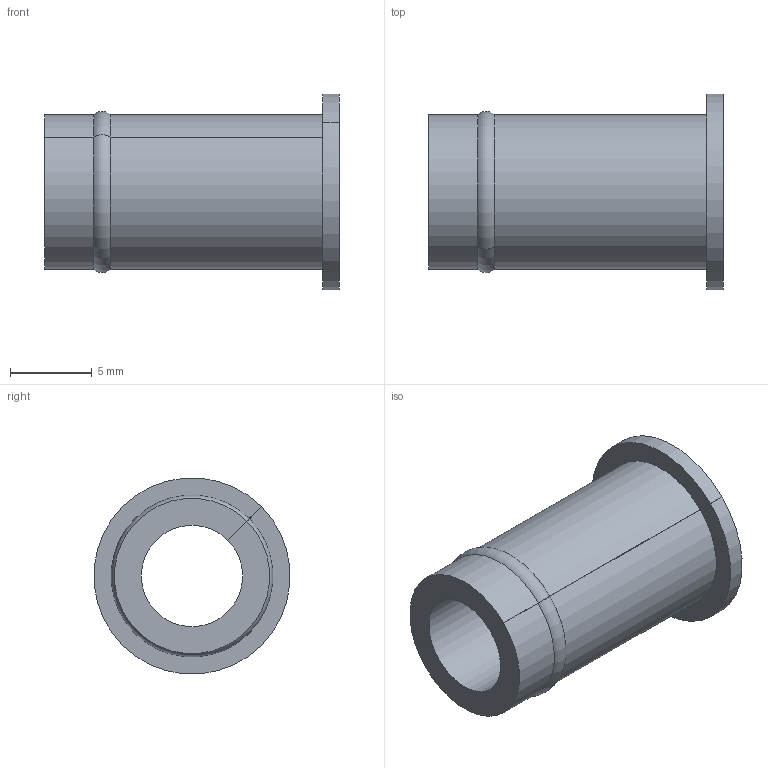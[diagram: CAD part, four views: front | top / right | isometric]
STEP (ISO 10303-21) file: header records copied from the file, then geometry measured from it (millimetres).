
FILE_DESCRIPTION(('Creo Elements/Direct Modeling STEP Export'),'2;1');
FILE_NAME('H05-0033-CL909-00_G13-09BRS.stp','2023-06-08T15:13:32',(''),(''),'Creo Elements/Direct Modeling STEP processor for AP214 (Solid Model)','Creo Elements/Direct Modeling 20.3B 05-Dec-2020 (C) Parametric Technology GmbH','');
FILE_SCHEMA(('AUTOMOTIVE_DESIGN { 1 0 10303 214 1 1 1 1 }'));
Length unit declared in the file: millimetre
Products named in the file (2): G13-09BRS
Assembly tree (1 placements, depth 2):
  G13-09BRS
    G13-09BRS
Bounding box: 18 x 11.95 x 11.95 mm (x, y, z)
Volume: 778.5 mm3; surface area: 1127.2 mm2
Topology: 1 solids, 1 shells, 10 faces, 24 edges, 16 vertices
Faces by surface type: plane 5, cylinder 4, torus 1
Entity records: 358 total; most frequent: CARTESIAN_POINT 75, DIRECTION 52, ORIENTED_EDGE 48, EDGE_CURVE 24, AXIS2_PLACEMENT_3D 19, VERTEX_POINT 16, VECTOR 14, LINE 14
